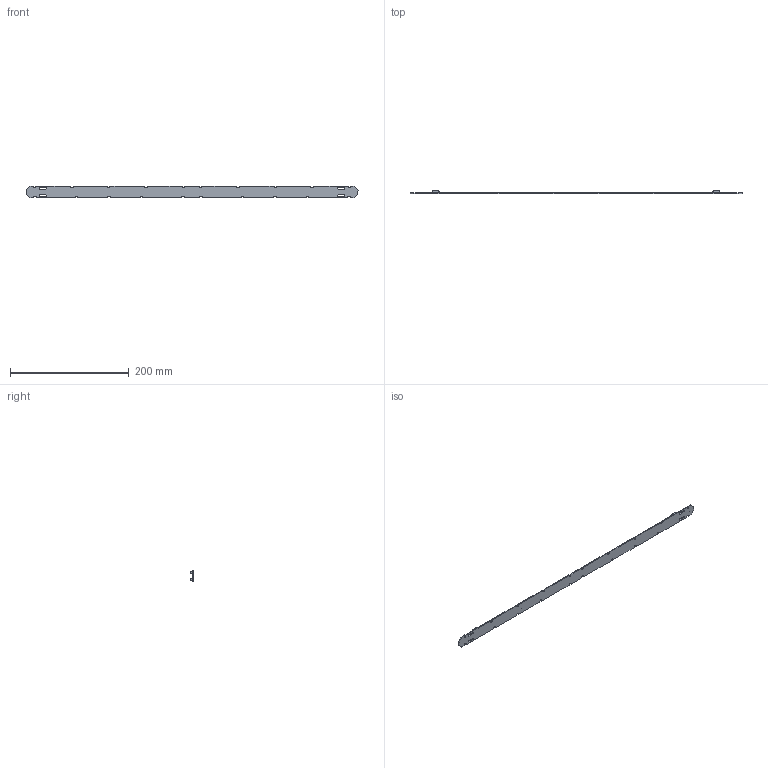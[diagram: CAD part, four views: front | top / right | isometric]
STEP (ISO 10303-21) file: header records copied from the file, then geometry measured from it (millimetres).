
FILE_DESCRIPTION (( 'STEP AP214' ), '1' );
FILE_NAME ('4162938swm000.step', '2020-02-19T13:29:28', ( 'OSRAM' ), ( 'OSRAM' ), 'SwSTEP 2.0', 'SolidWorks 2017', '' );
FILE_SCHEMA (( 'AUTOMOTIVE_DESIGN' ));
Length unit declared in the file: millimetre
Products named in the file (4): 3792700swm000; 3752457swm000; 4163036swm000; 4162938swm000
Assembly tree (6 placements, depth 2):
  4162938swm000
    4163036swm000
    3752457swm000
    3792700swm000  x4
Bounding box: 559.5 x 5.55 x 20 mm (x, y, z)
Volume: 18279.9 mm3; surface area: 26560.3 mm2
Topology: 77 solids, 77 shells, 1782 faces, 4528 edges, 2984 vertices
Faces by surface type: plane 1486, cylinder 176, bspline 112, cone 8
Entity records: 59392 total; most frequent: CARTESIAN_POINT 8564, ORIENTED_EDGE 7320, DIRECTION 6537, EDGE_CURVE 3660, VECTOR 3433, LINE 3433, VERTEX_POINT 2432, AXIS2_PLACEMENT_3D 1552
